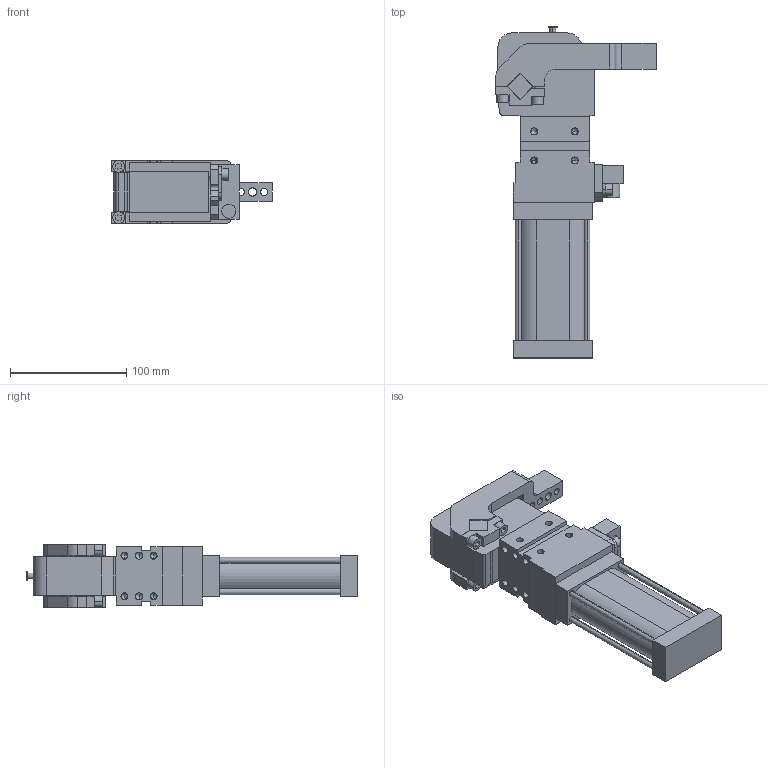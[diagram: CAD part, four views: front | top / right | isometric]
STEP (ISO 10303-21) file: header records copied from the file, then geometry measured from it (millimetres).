
FILE_DESCRIPTION (( 'STEP AP214' ), '1' );
FILE_NAME ('cpl40v1csi1g_31.STEP', '2021-05-19T10:26:12', ( '' ), ( '' ), 'SwSTEP 2.0', 'SolidWorks 2021', '' );
FILE_SCHEMA (( 'AUTOMOTIVE_DESIGN' ));
Length unit declared in the file: millimetre
Products named in the file (5): meccanica_cpl40; leva_v1c_cpl40; piastra_blocchetto_cpl40; blocchetto_VEP_0_cpl40; cpl40v1csi1g_31
Assembly tree (4 placements, depth 2):
  cpl40v1csi1g_31
    meccanica_cpl40
    leva_v1c_cpl40
    blocchetto_VEP_0_cpl40
    piastra_blocchetto_cpl40
Bounding box: 138 x 285 x 54 mm (x, y, z)
Volume: 772629.8 mm3; surface area: 118076.1 mm2
Topology: 5 solids, 5 shells, 442 faces, 1130 edges, 709 vertices
Faces by surface type: plane 246, cylinder 148, cone 48
Entity records: 14617 total; most frequent: DIRECTION 2308, CARTESIAN_POINT 2242, ORIENTED_EDGE 2168, EDGE_CURVE 1084, AXIS2_PLACEMENT_3D 775, LINE 758, VECTOR 758, VERTEX_POINT 709
